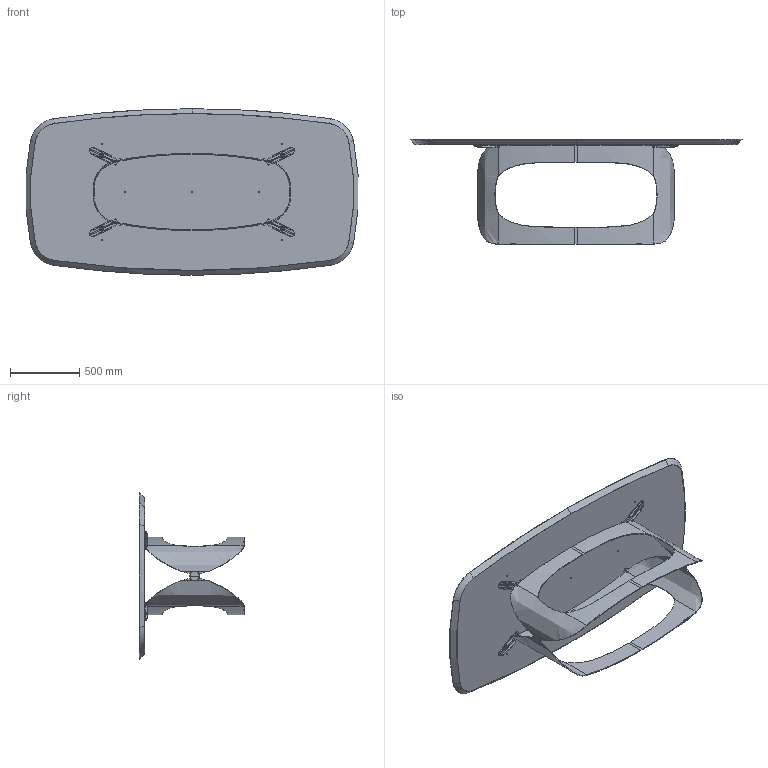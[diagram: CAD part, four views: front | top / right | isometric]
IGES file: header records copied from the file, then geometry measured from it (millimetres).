
Start section: SolidWorks IGES file using analytic representation for surfaces
Global section: file name: Y:\eforma\TECNICO\SOLIDWORKS\E-FORMA\1-TAVOLI\POLIFEMO\02 parts\PO43W.IGS; native system: SolidWorks 2022; preprocessor: SolidWorks 2022; author: eforma.tech; date: 240806.160246; units: millimetre
Bounding box: 2391.9 x 759.97 x 1200 mm (x, y, z)
Volume: 104395537.1 mm3; surface area: 8082669.1 mm2
Topology: 41 solids, 41 shells, 1369 faces, 3630 edges, 2234 vertices
Faces by surface type: revolution 837, plane 404, bspline 128
